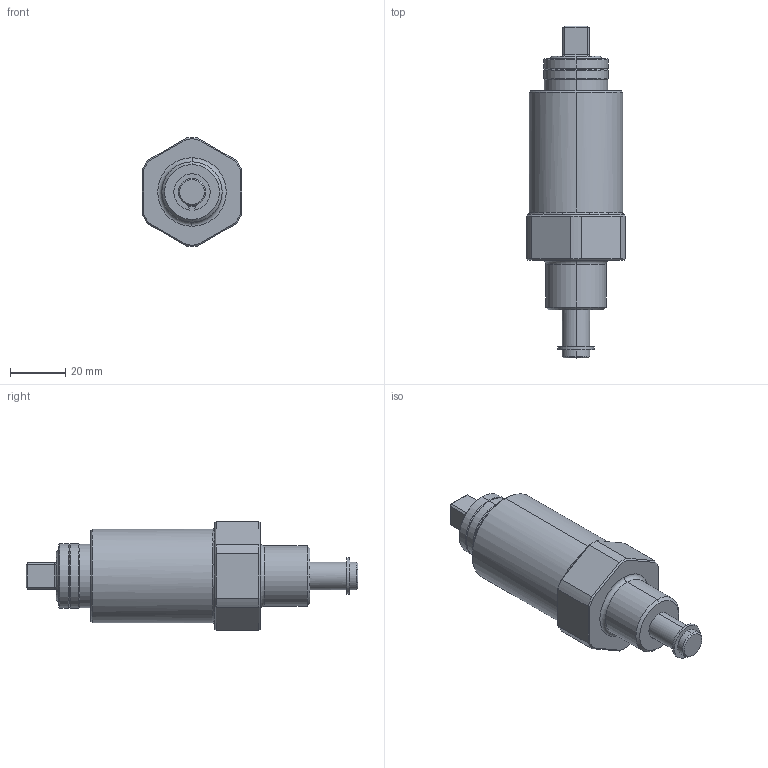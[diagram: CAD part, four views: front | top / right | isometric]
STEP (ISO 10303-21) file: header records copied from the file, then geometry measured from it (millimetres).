
FILE_DESCRIPTION((''),'2;1');
FILE_NAME('6159363800_DIM','2020-06-18T08:54:26',('gre_svc_itools'),(''),'CREO PARAMETRIC BY PTC INC, 2019080','CREO PARAMETRIC BY PTC INC, 2019080','');
FILE_SCHEMA(('AP242_MANAGED_MODEL_BASED_3D_ENGINEERING_MIM_LF { 1 0 10303 442 1 1 4 }'));
Length unit declared in the file: millimetre
Products named in the file (1): 6159363800_DIM
Bounding box: 36 x 120.5 x 39.48 mm (x, y, z)
Volume: 47757.2 mm3; surface area: 23475.1 mm2
Topology: 2 solids, 2 shells, 225 faces, 521 edges, 308 vertices
Faces by surface type: cylinder 69, plane 66, cone 64, torus 20, bspline 6
Entity records: 7172 total; most frequent: CARTESIAN_POINT 1860, DIRECTION 1121, ORIENTED_EDGE 1042, EDGE_CURVE 521, AXIS2_PLACEMENT_3D 463, VERTEX_POINT 308, EDGE_LOOP 245, CIRCLE 244
